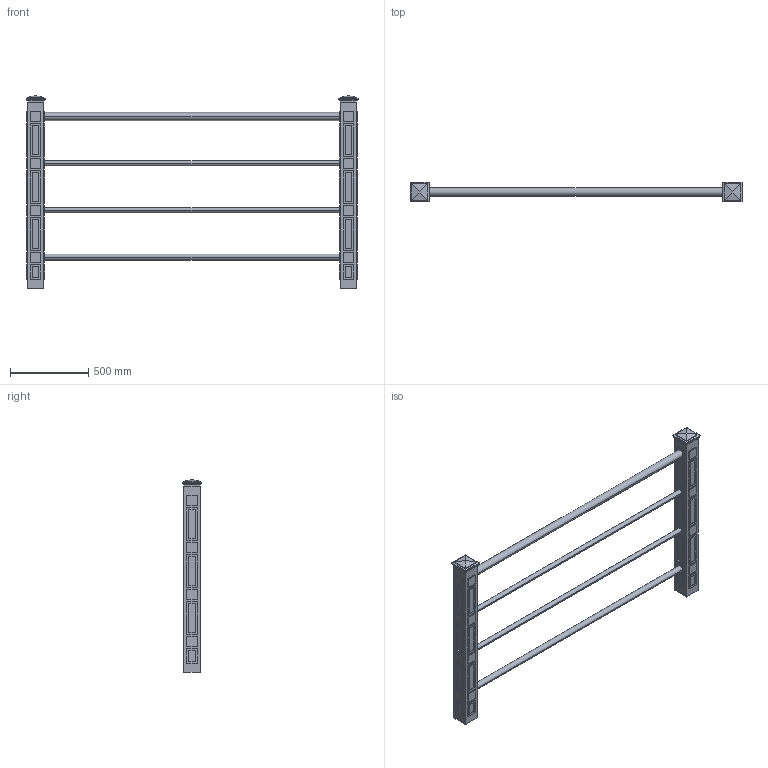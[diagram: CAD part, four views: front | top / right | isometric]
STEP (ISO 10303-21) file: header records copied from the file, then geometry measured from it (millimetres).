
FILE_DESCRIPTION(/* description */ (''),/* implementation_level */ '2;1');
FILE_NAME(/* name */ 'A1_HKR~2',/* time_stamp */ '2016-12-08T09:35:56+02:00',/* author */ (''),/* organization */ (''),/* preprocessor_version */ 'ST-DEVELOPER v15',/* originating_system */ '',/* authorisation */ '');
FILE_SCHEMA (('AUTOMOTIVE_DESIGN'));
Length unit declared in the file: millimetre
Products named in the file (1): Document
Bounding box: 2124 x 124 x 1233 mm (x, y, z)
Volume: 38051843.9 mm3; surface area: 2203667.7 mm2
Topology: 6 solids, 6 shells, 582 faces, 1350 edges, 878 vertices
Faces by surface type: plane 518, bspline 64
Entity records: 15229 total; most frequent: CARTESIAN_POINT 5430, ORIENTED_EDGE 2700, EDGE_CURVE 1350, B_SPLINE_CURVE_WITH_KNOTS 1326, VERTEX_POINT 878, EDGE_LOOP 680, ADVANCED_FACE 582, FACE_OUTER_BOUND 582
